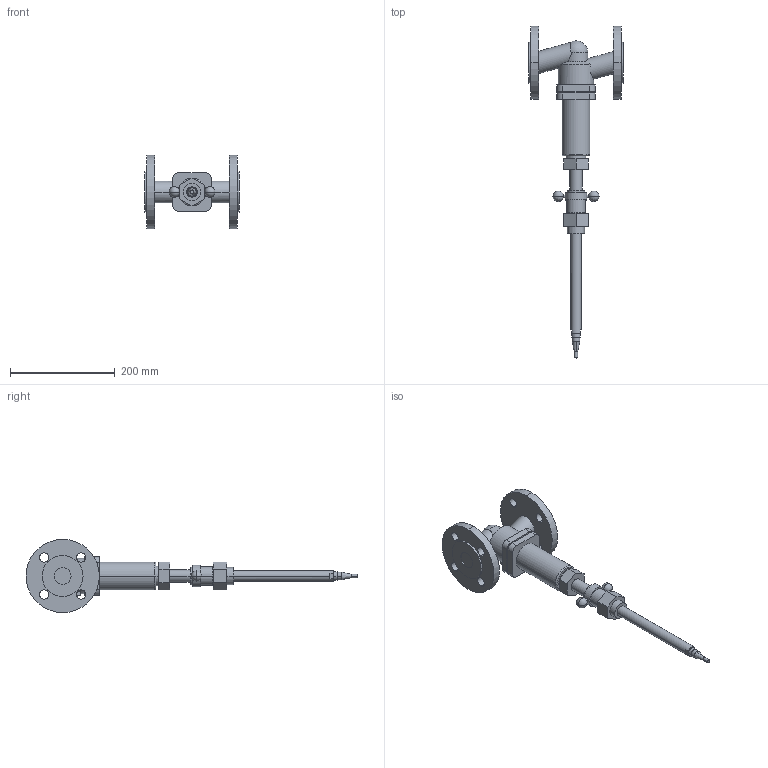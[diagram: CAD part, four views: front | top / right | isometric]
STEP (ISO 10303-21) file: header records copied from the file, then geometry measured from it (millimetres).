
FILE_DESCRIPTION(('CoCreate Modeling STEP Export'),'2;1');
FILE_NAME('c000001239.stp','2011-09-21T 9:19:13',(''),(''),'CoCreate Modeling STEP processor for AP214 (Solid Model)','CoCreate Modeling 17.0 01-Apr-2010 (C) Parametric Technology GmbH','');
FILE_SCHEMA(('AUTOMOTIVE_DESIGN { 1 0 10303 214 1 1 1 1 }'));
Length unit declared in the file: millimetre
Products named in the file (1): 1
Bounding box: 180 x 634.05 x 140 mm (x, y, z)
Volume: 1416236.6 mm3; surface area: 179268.9 mm2
Topology: 1 solids, 1 shells, 154 faces, 383 edges, 246 vertices
Faces by surface type: cylinder 74, plane 64, sphere 10, cone 4, torus 2
Entity records: 7528 total; most frequent: CARTESIAN_POINT 2927, ORIENTED_EDGE 746, DIRECTION 609, EDGE_CURVE 373, VERTEX_POINT 246, AXIS2_PLACEMENT_3D 216, EDGE_LOOP 195, VECTOR 177
